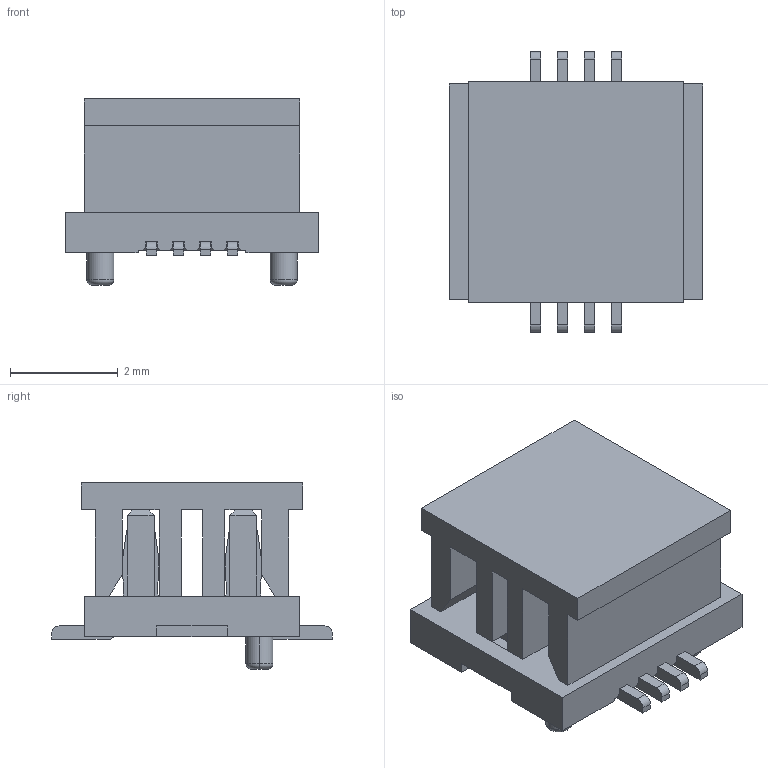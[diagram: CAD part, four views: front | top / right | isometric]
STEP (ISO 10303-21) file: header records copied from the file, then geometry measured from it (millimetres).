
FILE_DESCRIPTION(('CATIA V5 STEP Exchange'),'2;1');
FILE_NAME('F:\黄富鸿\板对板\PBB05\公座\H0.8\编带+盖\HC-PBB05-2-08-M-H0.8-G1-R-P-04（BTB0.5 双槽 公座 立贴 带柱 编带+盖）-HCTL.stp','2025-12-16T07:13:51+00:00',('none'),('none'),'CATIA Version 5 Release 20 GA (IN-10)','CATIA V5 STEP AP203','none');
FILE_SCHEMA(('CONFIG_CONTROL_DESIGN'));
Length unit declared in the file: millimetre
Products named in the file (1): Part2
Bounding box: 4.7 x 5.2 x 3.45 mm (x, y, z)
Volume: 36.8 mm3; surface area: 234 mm2
Topology: 10 solids, 10 shells, 528 faces, 1574 edges, 1040 vertices
Faces by surface type: plane 360, cylinder 164, torus 4
Entity records: 15739 total; most frequent: ORIENTED_EDGE 3148, CARTESIAN_POINT 2900, DIRECTION 1920, EDGE_CURVE 1574, VECTOR 1206, LINE 1206, VERTEX_POINT 1040, EDGE_LOOP 534
